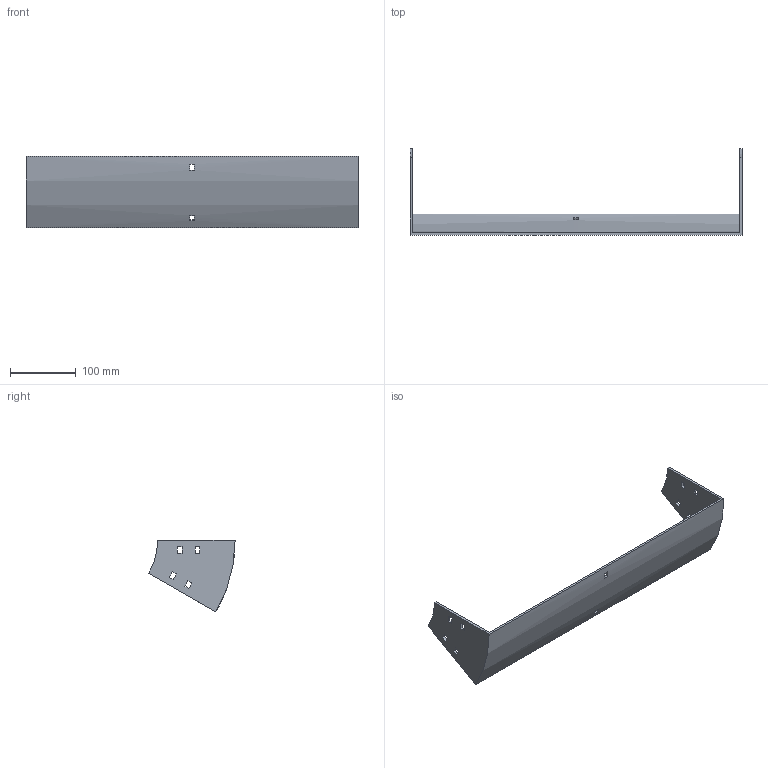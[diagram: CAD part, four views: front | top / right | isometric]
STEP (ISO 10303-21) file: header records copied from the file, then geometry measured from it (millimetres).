
FILE_DESCRIPTION (( 'STEP AP214' ), '1' );
FILE_NAME ('32B1J500.step', '2025-02-21T09:43:08', ( '' ), ( '' ), 'SwSTEP 2.0', 'SolidWorks 2023', '' );
FILE_SCHEMA (( 'AUTOMOTIVE_DESIGN' ));
Length unit declared in the file: millimetre
Products named in the file (1): 32B1J500
Bounding box: 504 x 130.9 x 108.75 mm (x, y, z)
Volume: 262501.7 mm3; surface area: 156667.5 mm2
Topology: 1 solids, 1 shells, 50 faces, 144 edges, 96 vertices
Faces by surface type: plane 46, cylinder 4
Entity records: 1687 total; most frequent: CARTESIAN_POINT 291, ORIENTED_EDGE 288, DIRECTION 262, EDGE_CURVE 144, LINE 128, VECTOR 128, VERTEX_POINT 96, EDGE_LOOP 70
